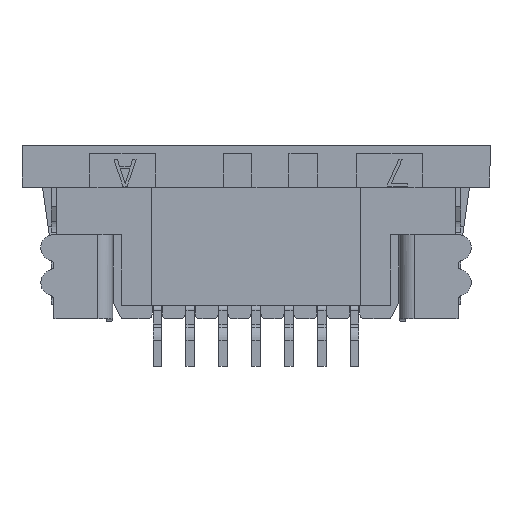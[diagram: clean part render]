
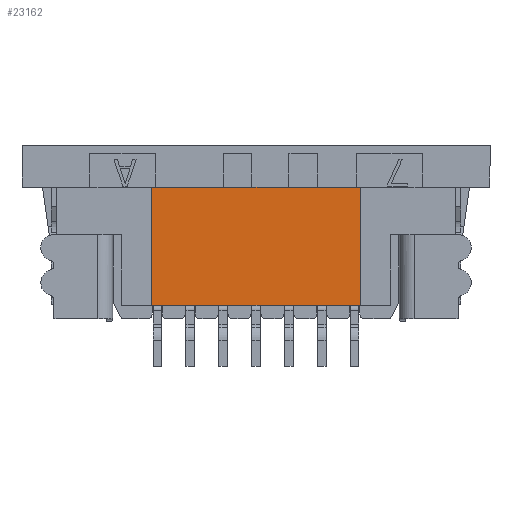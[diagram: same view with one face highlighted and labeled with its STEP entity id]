
A CAD part, front view. The second image highlights one B-rep face of the part: STEP entity #23162.
In plain terms, the highlighted planar face has unit normal (0, -1, 0).
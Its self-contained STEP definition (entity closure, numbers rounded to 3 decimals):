
#2031 = CARTESIAN_POINT ( 'NONE',  ( -2.229, 0., -4.89 ) ) ;
#3034 = DIRECTION ( 'NONE',  ( -1., 0., 0. ) ) ;
#3878 = ORIENTED_EDGE ( 'NONE', *, *, #26587, .T. ) ;
#4079 = CARTESIAN_POINT ( 'NONE',  ( -1.17, 0., -1.205 ) ) ;
#4747 = CARTESIAN_POINT ( 'NONE',  ( -1.284, 0., -1.195 ) ) ;
#5377 = DIRECTION ( 'NONE',  ( 0., 0., 1. ) ) ;
#6350 = EDGE_CURVE ( 'NONE', #15171, #14785, #9496, .T. ) ;
#6687 = ORIENTED_EDGE ( 'NONE', *, *, #15001, .T. ) ;
#6698 = VERTEX_POINT ( 'NONE', #21504 ) ;
#7214 = ORIENTED_EDGE ( 'NONE', *, *, #23666, .T. ) ;
#7696 = CARTESIAN_POINT ( 'NONE',  ( -1.17, 0., -1.3 ) ) ;
#8725 = VECTOR ( 'NONE', #5377, 1000. ) ;
#9496 = LINE ( 'NONE', #2031, #30680 ) ;
#10980 = VECTOR ( 'NONE', #3034, 1000. ) ;
#11943 = CARTESIAN_POINT ( 'NONE',  ( -1.17, 0., -4.89 ) ) ;
#13440 = VERTEX_POINT ( 'NONE', #7696 ) ;
#13767 = DIRECTION ( 'NONE',  ( 0., 0., -1. ) ) ;
#14127 = VECTOR ( 'NONE', #13767, 1000. ) ;
#14273 = FACE_OUTER_BOUND ( 'NONE', #21661, .T. ) ;
#14785 = VERTEX_POINT ( 'NONE', #11943 ) ;
#14930 = LINE ( 'NONE', #19386, #10980 ) ;
#15001 = EDGE_CURVE ( 'NONE', #6698, #13440, #14930, .T. ) ;
#15171 = VERTEX_POINT ( 'NONE', #20457 ) ;
#16128 = LINE ( 'NONE', #4079, #14127 ) ;
#16647 = PLANE ( 'NONE',  #24734 ) ;
#19386 = CARTESIAN_POINT ( 'NONE',  ( 0.716, 0., -1.3 ) ) ;
#20457 = CARTESIAN_POINT ( 'NONE',  ( 5.17, 0., -4.89 ) ) ;
#21463 = LINE ( 'NONE', #27114, #8725 ) ;
#21504 = CARTESIAN_POINT ( 'NONE',  ( 5.17, 0., -1.3 ) ) ;
#21661 = EDGE_LOOP ( 'NONE', ( #7214, #25846, #3878, #6687 ) ) ;
#23162 = ADVANCED_FACE ( 'NONE', ( #14273 ), #16647, .T. ) ;
#23666 = EDGE_CURVE ( 'NONE', #13440, #14785, #16128, .T. ) ;
#24734 = AXIS2_PLACEMENT_3D ( 'NONE', #4747, #26486, #31220 ) ;
#25846 = ORIENTED_EDGE ( 'NONE', *, *, #6350, .F. ) ;
#26486 = DIRECTION ( 'NONE',  ( 0., -1., 0. ) ) ;
#26587 = EDGE_CURVE ( 'NONE', #15171, #6698, #21463, .T. ) ;
#27114 = CARTESIAN_POINT ( 'NONE',  ( 5.17, 0., -1.205 ) ) ;
#28828 = DIRECTION ( 'NONE',  ( -1., 0., 0. ) ) ;
#30680 = VECTOR ( 'NONE', #28828, 1000. ) ;
#31220 = DIRECTION ( 'NONE',  ( 0., 0., -1. ) ) ;
